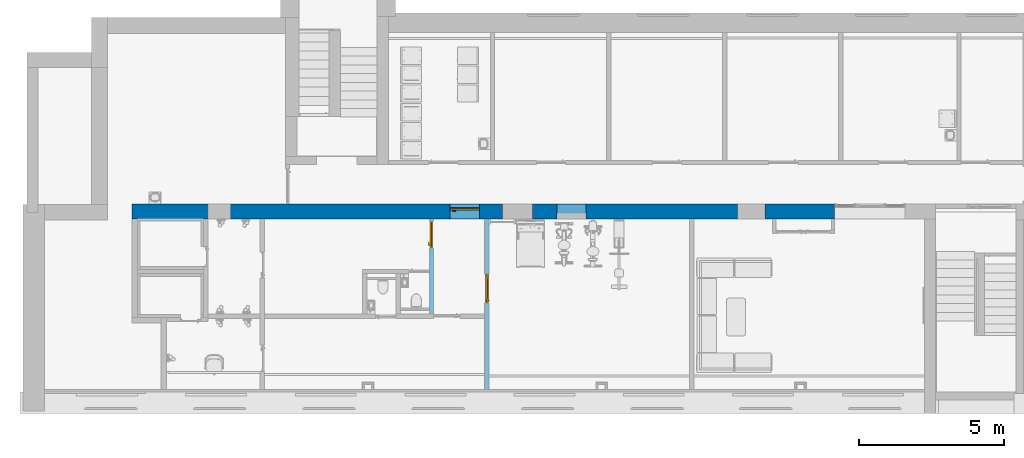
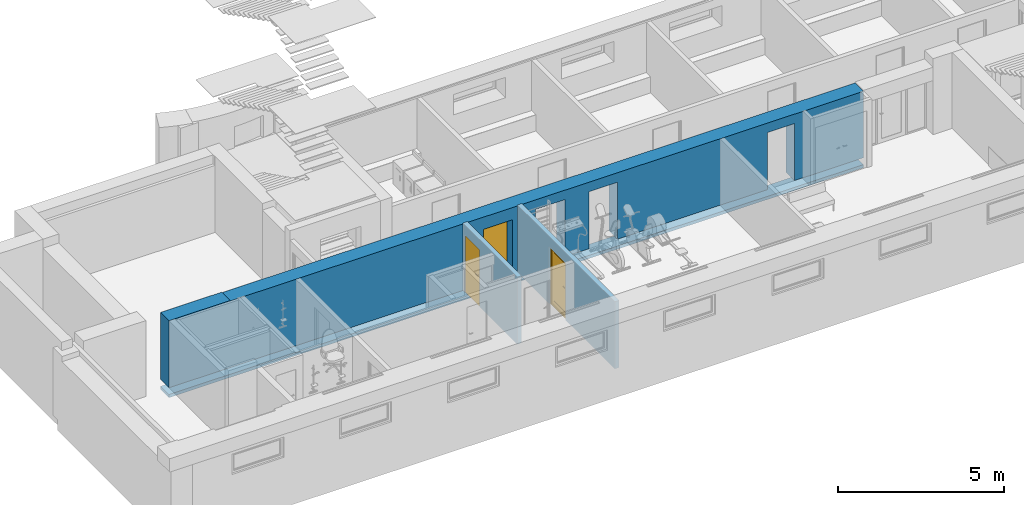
# One storey, part 12 of 23: 3 doors, 1 wall, 4 openings, plus 2 elements that do not belong to this part.
"""IFC2X3 building model written with IfcOpenShell, lengths in millimetres."""

from ifc_helpers import new_model, entity, si_unit, converted_unit, derived_unit, direction, frame, frame_2d, origin, place, context, subcontext, project, spatial, rectangle, extrude, faceted_brep, source, transform, mapped, material, material_list, layer, layer_set, layer_usage, type_object, type_shapes, element, fill, save


model = new_model("IFC2X3")

# Units and contexts
model_context = context("Model", 3, precision=0.01, world=origin(), true_north=direction((6.12303176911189e-17, 1.0)))
body_context = subcontext(model_context, "Body", "Model", "MODEL_VIEW")
ifc_project = project(units=[si_unit("LENGTHUNIT", "METRE", prefix="MILLI"), si_unit("AREAUNIT", "SQUARE_METRE"), si_unit("VOLUMEUNIT", "CUBIC_METRE"), converted_unit("PLANEANGLEUNIT", "DEGREE", entity("IfcRatioMeasure", 0.0174532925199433), si_unit("PLANEANGLEUNIT", "RADIAN"), dimensions=[0, 0, 0, 0, 0, 0, 0]), si_unit("MASSUNIT", "GRAM", prefix="KILO"), derived_unit("MASSDENSITYUNIT", [(si_unit("MASSUNIT", "GRAM", prefix="KILO"), 1), (si_unit("LENGTHUNIT", "METRE"), -3)]), si_unit("TIMEUNIT", "SECOND"), si_unit("FREQUENCYUNIT", "HERTZ"), si_unit("THERMODYNAMICTEMPERATUREUNIT", "DEGREE_CELSIUS"), derived_unit("THERMALTRANSMITTANCEUNIT", [(si_unit("MASSUNIT", "GRAM", prefix="KILO"), 1), (si_unit("THERMODYNAMICTEMPERATUREUNIT", "KELVIN"), -1), (si_unit("TIMEUNIT", "SECOND"), -3)]), derived_unit("VOLUMETRICFLOWRATEUNIT", [(si_unit("LENGTHUNIT", "METRE"), 3), (si_unit("TIMEUNIT", "SECOND"), -1)]), si_unit("ELECTRICCURRENTUNIT", "AMPERE"), si_unit("ELECTRICVOLTAGEUNIT", "VOLT"), si_unit("POWERUNIT", "WATT"), si_unit("FORCEUNIT", "NEWTON", prefix="KILO"), si_unit("ILLUMINANCEUNIT", "LUX"), si_unit("LUMINOUSFLUXUNIT", "LUMEN"), si_unit("LUMINOUSINTENSITYUNIT", "CANDELA"), derived_unit("USERDEFINED", [(si_unit("MASSUNIT", "GRAM", prefix="KILO"), -1), (si_unit("LENGTHUNIT", "METRE"), -2), (si_unit("TIMEUNIT", "SECOND"), 3), (si_unit("LUMINOUSFLUXUNIT", "LUMEN"), 1)]), derived_unit("LINEARVELOCITYUNIT", [(si_unit("LENGTHUNIT", "METRE"), 1), (si_unit("TIMEUNIT", "SECOND"), -1)]), si_unit("PRESSUREUNIT", "PASCAL"), derived_unit("USERDEFINED", [(si_unit("LENGTHUNIT", "METRE"), -2), (si_unit("MASSUNIT", "GRAM", prefix="KILO"), 1), (si_unit("TIMEUNIT", "SECOND"), -2)]), derived_unit("LINEARFORCEUNIT", [(si_unit("MASSUNIT", "GRAM", prefix="KILO"), 1), (si_unit("LENGTHUNIT", "METRE"), 1), (si_unit("TIMEUNIT", "SECOND"), -2), (si_unit("LENGTHUNIT", "METRE"), -1)]), derived_unit("PLANARFORCEUNIT", [(si_unit("MASSUNIT", "GRAM", prefix="KILO"), 1), (si_unit("LENGTHUNIT", "METRE"), 1), (si_unit("TIMEUNIT", "SECOND"), -2), (si_unit("LENGTHUNIT", "METRE"), -2)])], contexts=[model_context])

# Site, building, storey
site_placement = place(None, origin())
site = spatial("IfcSite", under=ifc_project, at=site_placement, Name="Default", CompositionType="ELEMENT")
building_placement = place(site_placement, origin())
building = spatial("IfcBuilding", under=site, at=building_placement, Name="SMA ARH", CompositionType="ELEMENT")
storey_placement = place(building_placement, frame((0.0, 0.0, -2800.0)))
storey = spatial("IfcBuildingStorey", under=building, at=storey_placement, Name="0 Sokkel", CompositionType="ELEMENT", Elevation=-2800.0)

# Wall, opening, door
ifc_material_1 = material(Name="_ol.olev sein")
ifc_layer_1 = layer(ifc_material_1, 510.0)
ifc_layer_set_1 = layer_set([ifc_layer_1], Name="Basic Wall:Generic - 510mm")
wall_type_1 = type_object("IfcWallType", Name="Basic Wall:Generic - 510mm", PredefinedType="STANDARD", material=ifc_layer_set_1)
wall_1_placement = place(storey_placement, frame((3150.0, 6265.0, -365.950000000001)))
wall_1 = element("IfcWall", 1, at=wall_1_placement, inside=storey, type_object=wall_type_1, Name="Basic Wall:Generic - 510mm", ObjectType="Basic Wall:Generic - 510mm", context=body_context, shape_type="Brep", body=[
    faceted_brep([(0.0, -255.0, 0.0), (24210.0, -255.0, 0.0), (24210.0, -255.0, 115.950000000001), (0.0, -255.0, 115.950000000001), (24210.0, 255.0, 0.0), (0.0, 255.0, 0.0), (0.0, 255.0, 115.950000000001), (24210.0, 255.0, 115.950000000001)], [[[0, 1, 2, 3]], [[4, 5, 6, 7]], [[1, 0, 5, 4]], [[3, 2, 7, 6]], [[5, 0, 3, 6]], [[1, 4, 7, 2]]]),
    faceted_brep([(24210.0, -255.0, 365.950000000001), (24210.0, 255.0, 365.950000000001), (24210.0, 255.0, 2365.95), (24210.0, 255.0, 2415.94999999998), (24210.0, 255.0, 2815.95), (24210.0, -255.0, 2815.95), (11970.0, -255.0, 2365.94999999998), (11970.0, 255.0, 2365.94999999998), (11970.0, 255.0, 365.950000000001), (11970.0, -255.0, 365.950000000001), (10970.0, -255.0, 2365.94999999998), (10970.0, 255.0, 2365.94999999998), (10970.0, -255.0, 365.950000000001), (10970.0, 255.0, 365.950000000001), (20864.5301609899, -255.0, 2465.95), (20864.5301609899, 255.0, 2465.95), (21804.5301609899, 255.0, 2465.95), (21804.5301609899, -255.0, 2465.95), (20864.5301609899, -255.0, 365.950000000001), (20864.5301609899, 255.0, 365.950000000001), (21804.5301609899, 255.0, 365.950000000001), (21804.5301609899, -255.0, 365.950000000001), (12770.0, -255.0, 2465.95), (12770.0, 255.0, 2465.95), (13810.0, 255.0, 2465.95), (13810.0, -255.0, 2465.95), (12770.0, -255.0, 365.950000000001), (12770.0, 255.0, 365.950000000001), (13810.0, 255.0, 365.950000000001), (13810.0, -255.0, 365.950000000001), (14643.7043911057, -255.0, 2465.95), (14643.7043911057, -55.0, 2465.95), (14643.7043911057, 255.0, 2465.95), (15639.1015672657, 255.0, 2465.95), (15639.1015672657, -55.0, 2465.95), (15639.1015672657, -255.0, 2465.95), (14643.7043911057, -255.0, 365.950000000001), (14643.7043911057, -55.0, 365.950000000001), (14643.7043911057, 255.0, 365.950000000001), (15639.1015672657, 255.0, 365.950000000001), (15639.1015672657, -55.0, 365.950000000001), (15639.1015672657, -255.0, 365.950000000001), (0.0, 255.0, 365.950000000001), (0.0, -255.0, 365.950000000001), (0.0, -255.0, 2835.95), (0.0, 255.0, 2835.95), (200.0, -255.0, 2835.95), (2132.50000000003, -255.0, 2835.95), (2132.50000000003, 255.0, 2835.95), (10400.0236086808, -255.0, 365.950000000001), (10250.0236086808, -255.0, 365.950000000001), (4569.97172272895, -255.0, 365.950000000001), (4419.97172272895, -255.0, 365.950000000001), (2619.97172272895, -255.0, 365.950000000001), (2469.97172272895, -255.0, 365.950000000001), (200.0, -255.0, 365.950000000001), (2132.50000000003, 255.0, 2815.95), (2132.50000000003, -255.0, 2815.95), (4419.97172272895, -255.0, 2815.95), (4569.97172272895, -255.0, 2815.95), (19210.0, -255.0, 2815.95), (19360.0, -255.0, 2815.95), (9921.25000000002, 255.0, 2815.95), (5440.0, 255.0, 2815.95), (5290.0, 255.0, 2815.95), (12300.0, -255.0, 365.950000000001), (12150.0, -255.0, 365.950000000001), (19360.0, -255.0, 365.950000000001), (19210.0, -255.0, 365.950000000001), (24094.5147814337, -255.0, 365.950000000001), (22194.5147814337, -255.0, 365.950000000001), (22078.5147814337, -255.0, 365.950000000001)], [[[0, 1, 2, 3, 4, 5]], [[6, 7, 8, 9]], [[7, 6, 10, 11]], [[11, 10, 12, 13]], [[14, 15, 16, 17]], [[15, 14, 18, 19]], [[17, 16, 20, 21]], [[22, 23, 24, 25]], [[23, 22, 26, 27]], [[25, 24, 28, 29]], [[30, 31, 32, 33, 34, 35]], [[32, 31, 30, 36, 37, 38]], [[35, 34, 33, 39, 40, 41]], [[42, 43, 44, 45]], [[45, 44, 46, 47, 48]], [[42, 13, 12, 49, 50, 51, 52, 53, 54, 55, 43]], [[56, 57, 58, 59, 60, 61, 5, 4, 62, 63, 64]], [[57, 56, 48, 47]], [[26, 65, 66, 9, 8, 27]], [[36, 29, 28, 38, 37]], [[18, 67, 68, 41, 40, 39, 19]], [[0, 69, 70, 71, 21, 20, 1]], [[8, 7, 11, 13, 42, 45, 48, 56, 64, 63, 62, 4, 3, 2, 1, 20, 16, 15, 19, 39, 33, 32, 38, 28, 24, 23, 27]], [[6, 9, 66, 65, 26, 22, 25, 29, 36, 30, 35, 41, 68, 67, 18, 14, 17, 21, 71, 70, 69, 0, 5, 61, 60, 59, 58, 57, 47, 46, 44, 43, 55, 54, 53, 52, 51, 50, 49, 12, 10]]]),
])
opening_1_placement = place(wall_1_placement, frame((11970.0, 255.0, 365.950000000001)))
opening_1 = element("IfcOpeningElement", 2, at=opening_1_placement, cuts=wall_1, Name="SMA_D01, 1-poolne:SU-M-03 - 1000x2000:1", ObjectType="Opening", context=body_context, shape_type="SweptSolid", body=[
    extrude(rectangle(XDim=1999.99999999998, YDim=1000.0, at=frame_2d((999.99999999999, 500.0), x_axis=(1.0, 0.0))), frame((0.0, 0.0, 0.0), z_axis=(0.0, -1.0, 0.0), x_axis=(0.0, 0.0, 1.0)), (0.0, 0.0, 1.0), 510.0),
])
ifc_material_2 = material(Name="EST. Metall. Alumiinium. Värvitud. RAL7023 (Concrete grey)")
ifc_material_3 = material(Name="<Unnamed>")
ifc_material_4 = material(Name="EST. Klaas. 3x. Default")
ifc_material_list_1 = material_list([ifc_material_2, ifc_material_3, ifc_material_2, ifc_material_3, ifc_material_2, ifc_material_3, ifc_material_4])
door_style_1 = type_object("IfcDoorStyle", Name="SMA_D01, 1-poolne:SU-M-03 - 1000x2000", ConstructionType="NOTDEFINED", OperationType="NOTDEFINED", ParameterTakesPrecedence=False, Sizeable=False, material=ifc_material_list_1)
shared_shape_1 = source(origin(), body_context, "Body", "Brep", [
    faceted_brep([(890.0, 120.0, 1112.5), (795.0, 120.0, 1112.5), (795.0, 115.0, 1112.5), (915.0, 115.0, 1112.5), (915.0, 158.0, 1112.5), (890.0, 158.0, 1112.5), (890.0, 120.0, 1087.5), (890.0, 158.0, 1087.5), (915.0, 158.0, 1087.5), (915.0, 115.0, 1087.5), (795.0, 115.0, 1087.5), (795.0, 120.0, 1087.5)], [[[0, 1, 2, 3, 4, 5]], [[6, 7, 8, 9, 10, 11]], [[5, 7, 6, 0]], [[4, 8, 7, 5]], [[3, 9, 8, 4]], [[2, 10, 9, 3]], [[1, 11, 10, 2]], [[0, 6, 11, 1]]]),
    faceted_brep([(877.500000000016, 158.0, 1137.5), (927.500000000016, 158.0, 1137.5), (927.500000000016, 160.0, 1137.5), (877.500000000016, 160.0, 1137.5), (877.500000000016, 158.0, 1017.5), (877.500000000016, 160.0, 1017.5), (927.500000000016, 160.0, 1017.5), (927.500000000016, 158.0, 1017.5)], [[[0, 1, 2, 3]], [[4, 5, 6, 7]], [[3, 5, 4, 0]], [[2, 6, 5, 3]], [[1, 7, 6, 2]], [[0, 4, 7, 1]]]),
    faceted_brep([(890.0, 250.0, 1112.5), (890.0, 212.0, 1112.5), (915.0, 212.0, 1112.5), (915.0, 255.0, 1112.5), (795.0, 255.0, 1112.5), (795.0, 250.0, 1112.5), (890.0, 250.0, 1087.5), (795.0, 250.0, 1087.5), (795.0, 255.0, 1087.5), (915.0, 255.0, 1087.5), (915.0, 212.0, 1087.5), (890.0, 212.0, 1087.5)], [[[0, 1, 2, 3, 4, 5]], [[6, 7, 8, 9, 10, 11]], [[1, 0, 6, 11]], [[2, 1, 11, 10]], [[3, 2, 10, 9]], [[4, 3, 9, 8]], [[5, 4, 8, 7]], [[0, 5, 7, 6]]]),
    faceted_brep([(877.500000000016, 212.0, 1137.5), (877.500000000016, 210.0, 1137.5), (927.500000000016, 210.0, 1137.5), (927.500000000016, 212.0, 1137.5), (877.500000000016, 212.0, 1017.5), (927.500000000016, 212.0, 1017.5), (927.500000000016, 210.0, 1017.5), (877.500000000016, 210.0, 1017.5)], [[[0, 1, 2, 3]], [[4, 5, 6, 7]], [[1, 0, 4, 7]], [[2, 1, 7, 6]], [[3, 2, 6, 5]], [[0, 3, 5, 4]]]),
    faceted_brep([(50.0, 120.0, 30.0), (50.0, 160.0, 30.0), (50.0, 160.0, 20.0), (50.0, 160.0, 0.0), (50.0, 120.0, 0.0), (950.0, 120.0, 30.0), (950.0, 120.0, 0.0), (950.0, 160.0, 0.0), (950.0, 160.0, 20.0), (950.0, 160.0, 30.0), (35.0, 160.0, 0.0), (35.0, 210.0, 0.0), (965.0, 210.0, 0.0), (965.0, 160.0, 0.0), (35.0, 210.0, 20.0), (35.0, 160.0, 20.0), (965.0, 210.0, 20.0), (965.0, 160.0, 20.0)], [[[0, 1, 2, 3, 4]], [[5, 6, 7, 8, 9]], [[4, 6, 5, 0]], [[3, 10, 11, 12, 13, 7, 6, 4]], [[9, 8, 2, 1]], [[0, 5, 9, 1]], [[14, 11, 10, 15]], [[16, 17, 13, 12]], [[15, 2, 8, 17, 16, 14]], [[10, 3, 2, 15]], [[14, 16, 12, 11]], [[17, 8, 7, 13]]]),
    faceted_brep([(10.0, 120.0, 0.0), (10.0, 210.0, 0.0), (35.0, 210.0, 0.0), (35.0, 160.0, 0.0), (50.0, 160.0, 0.0), (50.0, 120.0, 0.0), (50.0, 120.0, 1950.0), (950.0, 120.0, 1950.0), (950.0, 120.0, 0.0), (990.0, 120.0, 0.0), (990.0, 120.0, 1990.0), (10.0, 120.0, 1990.0), (50.0, 160.0, 1950.0), (35.0, 160.0, 1965.0), (965.0, 160.0, 1965.0), (965.0, 160.0, 0.0), (950.0, 160.0, 0.0), (950.0, 160.0, 1950.0), (35.0, 210.0, 1965.0), (10.0, 210.0, 1990.0), (990.0, 210.0, 1990.0), (990.0, 210.0, 0.0), (965.0, 210.0, 0.0), (965.0, 210.0, 1965.0)], [[[0, 1, 2, 3, 4, 5]], [[5, 6, 7, 8, 9, 10, 11, 0]], [[4, 12, 6, 5]], [[3, 13, 14, 15, 16, 17, 12, 4]], [[2, 18, 13, 3]], [[1, 19, 20, 21, 22, 23, 18, 2]], [[0, 11, 19, 1]], [[9, 21, 20, 10]], [[8, 16, 15, 22, 21, 9]], [[7, 17, 16, 8]], [[14, 23, 22, 15]], [[6, 12, 17, 7]], [[13, 18, 23, 14]], [[10, 20, 19, 11]]]),
    faceted_brep([(965.0, 160.0, 1965.0), (35.0, 160.0, 1965.0), (35.0, 160.0, 20.0), (965.0, 160.0, 20.0), (965.0, 210.0, 1965.0), (965.0, 210.0, 20.0), (35.0, 210.0, 20.0), (35.0, 210.0, 1965.0)], [[[0, 1, 2, 3]], [[4, 5, 6, 7]], [[3, 5, 4, 0]], [[2, 6, 5, 3]], [[1, 7, 6, 2]], [[0, 4, 7, 1]]]),
])
type_shapes(door_style_1, [shared_shape_1])
door_1_placement = place(opening_1_placement, frame((0.0, 0.0, 0.0), z_axis=(0.0, 0.0, 1.0), x_axis=(-1.0, 0.0, 0.0)))
door_1 = element("IfcDoor", 3, at=door_1_placement, inside=storey, type_object=door_style_1, material=ifc_material_2, Name="SMA_D01, 1-poolne:SU-M-03 - 1000x2000", ObjectType="SMA_D01, 1-poolne:SU-M-03 - 1000x2000", OverallHeight=1999.99999999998, OverallWidth=1000.0, context=body_context, shape_type="MappedRepresentation", body=[
    mapped(shared_shape_1, transform((0.0, 0.0, 0.0), scale=1.0)),
])
fill(opening_1, door_1)

# Wall, openings, door
ifc_material_5 = material(Name="EST. Müüritis. Väikeplokk. Kergkruusplokk")
ifc_layer_2 = layer(ifc_material_5, 150.0)
ifc_layer_set_2 = layer_set([ifc_layer_2], Name="Basic Wall:SS-01_ 150mm soklikorruse seinad")
ifc_layer_usage_1 = layer_usage(ifc_layer_set_2, "AXIS2", "NEGATIVE", 75.0)
wall_type_2 = type_object("IfcWallType", Name="Basic Wall:SS-01_ 150mm soklikorruse seinad", PredefinedType="STANDARD", material=ifc_layer_set_2)
wall_2_placement = place(storey_placement, frame((13475.0236086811, 6010.0, 0.0), z_axis=(0.0, 0.0, 1.0), x_axis=(0.0, -1.0, 0.0)))
wall_2 = element("IfcWallStandardCase", 4, at=wall_2_placement, inside=storey, type_object=wall_type_2, material=ifc_layer_usage_1, Name="Basic Wall:SS-01_ 150mm soklikorruse seinad", ObjectType="Basic Wall:SS-01_ 150mm soklikorruse seinad", context=body_context, shape_type="SweptSolid", body=[
    extrude(rectangle(XDim=3280.00000000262, YDim=150.000000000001, at=frame_2d((1640.00000000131, -1.20792265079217e-13), x_axis=(-1.0, 0.0))), origin(), (0.0, 0.0, 1.0), 2480.0),
])
opening_2_placement = place(wall_2_placement, origin())
element("IfcOpeningElement", 5, at=opening_2_placement, cuts=wall_2, Name="Basic Wall:SS-01_ 150mm soklikorruse seinad", ObjectType="Opening", context=body_context, shape_type="SweptSolid", body=[
    extrude(rectangle(XDim=2099.99999999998, YDim=150.0, at=frame_2d((-2.70006239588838e-13, 0.0), x_axis=(0.0, 1.0))), frame((1815.0, -775.0, 1050.0), z_axis=(0.0, 1.0, 0.0), x_axis=(-1.0, 0.0, 0.0)), (0.0, 0.0, 1.0), 699.999999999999),
])
opening_3_placement = place(wall_2_placement, frame((1000.0, 75.0, 0.0)))
opening_3 = element("IfcOpeningElement", 6, at=opening_3_placement, cuts=wall_2, Name="SMA_D01, 1-poolne:SU-P-01 - 900x2100:1", ObjectType="Opening", context=body_context, shape_type="SweptSolid", body=[
    extrude(rectangle(XDim=2099.99999999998, YDim=900.0, at=frame_2d((1049.99999999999, 450.0), x_axis=(1.0, 0.0))), frame((0.0, 0.0, 0.0), z_axis=(0.0, -1.0, 0.0), x_axis=(0.0, 0.0, 1.0)), (0.0, 0.0, 1.0), 150.0),
])
ifc_material_list_2 = material_list([ifc_material_4, ifc_material_3, ifc_material_3, ifc_material_2, ifc_material_3, ifc_material_2, ifc_material_2])
door_style_2 = type_object("IfcDoorStyle", Name="SMA_D01, 1-poolne:SU-P-01 - 900x2100", ConstructionType="NOTDEFINED", OperationType="NOTDEFINED", ParameterTakesPrecedence=False, Sizeable=False, material=ifc_material_list_2)
shared_shape_2 = source(origin(), body_context, "Body", "Brep", [
    faceted_brep([(110.0, 40.0, 1112.5), (110.0, 78.0, 1112.5), (85.0, 78.0, 1112.5), (85.0, 35.0, 1112.5), (205.0, 35.0, 1112.5), (205.0, 40.0, 1112.5), (110.0, 40.0, 1087.5), (205.0, 40.0, 1087.5), (205.0, 35.0, 1087.5), (85.0, 35.0, 1087.5), (85.0, 78.0, 1087.5), (110.0, 78.0, 1087.5)], [[[0, 1, 2, 3, 4, 5]], [[6, 7, 8, 9, 10, 11]], [[1, 0, 6, 11]], [[2, 1, 11, 10]], [[3, 2, 10, 9]], [[4, 3, 9, 8]], [[5, 4, 8, 7]], [[0, 5, 7, 6]]]),
    faceted_brep([(122.5, 78.0, 1137.5), (122.5, 80.0, 1137.5), (72.5000000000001, 80.0, 1137.5), (72.5000000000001, 78.0, 1137.5), (122.5, 78.0, 1017.5), (72.5000000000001, 78.0, 1017.5), (72.5000000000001, 80.0, 1017.5), (122.5, 80.0, 1017.5)], [[[0, 1, 2, 3]], [[4, 5, 6, 7]], [[1, 0, 4, 7]], [[2, 1, 7, 6]], [[3, 2, 6, 5]], [[0, 3, 5, 4]]]),
    faceted_brep([(110.0, 170.0, 1112.5), (205.0, 170.0, 1112.5), (205.0, 175.0, 1112.5), (85.0, 175.0, 1112.5), (85.0, 132.0, 1112.5), (110.0, 132.0, 1112.5), (110.0, 170.0, 1087.5), (110.0, 132.0, 1087.5), (85.0, 132.0, 1087.5), (85.0, 175.0, 1087.5), (205.0, 175.0, 1087.5), (205.0, 170.0, 1087.5)], [[[0, 1, 2, 3, 4, 5]], [[6, 7, 8, 9, 10, 11]], [[5, 7, 6, 0]], [[4, 8, 7, 5]], [[3, 9, 8, 4]], [[2, 10, 9, 3]], [[1, 11, 10, 2]], [[0, 6, 11, 1]]]),
    faceted_brep([(122.5, 132.0, 1137.5), (72.5000000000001, 132.0, 1137.5), (72.5000000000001, 130.0, 1137.5), (122.5, 130.0, 1137.5), (122.5, 132.0, 1017.5), (122.5, 130.0, 1017.5), (72.5000000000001, 130.0, 1017.5), (72.5000000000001, 132.0, 1017.5)], [[[0, 1, 2, 3]], [[4, 5, 6, 7]], [[3, 5, 4, 0]], [[2, 6, 5, 3]], [[1, 7, 6, 2]], [[0, 4, 7, 1]]]),
    faceted_brep([(850.0, 40.0, 30.0), (850.0, 40.0, 0.0), (850.0, 80.0, 0.0), (850.0, 80.0, 20.0), (850.0, 80.0, 30.0), (50.0, 40.0, 30.0), (50.0, 80.0, 30.0), (50.0, 80.0, 20.0), (50.0, 80.0, 0.0), (50.0, 40.0, 0.0), (35.0, 80.0, 0.0), (35.0, 130.0, 0.0), (865.0, 130.0, 0.0), (865.0, 80.0, 0.0), (865.0, 130.0, 20.0), (865.0, 80.0, 20.0), (35.0, 130.0, 20.0), (35.0, 80.0, 20.0)], [[[0, 1, 2, 3, 4]], [[5, 6, 7, 8, 9]], [[1, 0, 5, 9]], [[2, 1, 9, 8, 10, 11, 12, 13]], [[6, 4, 3, 7]], [[0, 4, 6, 5]], [[14, 15, 13, 12]], [[16, 11, 10, 17]], [[15, 14, 16, 17, 7, 3]], [[13, 15, 3, 2]], [[14, 12, 11, 16]], [[17, 10, 8, 7]]]),
    faceted_brep([(890.0, 40.0, 0.0), (850.0, 40.0, 0.0), (850.0, 80.0, 0.0), (865.0, 80.0, 0.0), (865.0, 130.0, 0.0), (890.0, 130.0, 0.0), (890.0, 40.0, 2090.0), (10.0, 40.0, 2090.0), (10.0, 40.0, 0.0), (50.0, 40.0, 0.0), (50.0, 40.0, 2050.0), (850.0, 40.0, 2050.0), (850.0, 80.0, 2050.0), (50.0, 80.0, 2050.0), (50.0, 80.0, 0.0), (35.0, 80.0, 0.0), (35.0, 80.0, 2065.0), (865.0, 80.0, 2065.0), (865.0, 130.0, 2065.0), (35.0, 130.0, 2065.0), (35.0, 130.0, 0.0), (10.0, 130.0, 0.0), (10.0, 130.0, 2090.0), (890.0, 130.0, 2090.0)], [[[0, 1, 2, 3, 4, 5]], [[1, 0, 6, 7, 8, 9, 10, 11]], [[2, 1, 11, 12]], [[3, 2, 12, 13, 14, 15, 16, 17]], [[4, 3, 17, 18]], [[5, 4, 18, 19, 20, 21, 22, 23]], [[0, 5, 23, 6]], [[8, 7, 22, 21]], [[9, 8, 21, 20, 15, 14]], [[10, 9, 14, 13]], [[16, 15, 20, 19]], [[11, 10, 13, 12]], [[17, 16, 19, 18]], [[7, 6, 23, 22]]]),
    faceted_brep([(35.0, 80.0, 2065.0), (35.0, 80.0, 20.0), (865.0, 80.0, 20.0), (865.0, 80.0, 2065.0), (35.0, 130.0, 2065.0), (865.0, 130.0, 2065.0), (865.0, 130.0, 20.0), (35.0, 130.0, 20.0)], [[[0, 1, 2, 3]], [[4, 5, 6, 7]], [[1, 0, 4, 7]], [[2, 1, 7, 6]], [[3, 2, 6, 5]], [[0, 3, 5, 4]]]),
])
type_shapes(door_style_2, [shared_shape_2])
door_2_placement = place(opening_3_placement, frame((0.0, 0.0, 0.0), z_axis=(0.0, 0.0, 1.0), x_axis=(-1.0, 0.0, 0.0)))
door_2 = element("IfcDoor", 7, at=door_2_placement, inside=storey, type_object=door_style_2, material=ifc_material_2, Name="SMA_D01, 1-poolne:SU-P-01 - 900x2100", ObjectType="SMA_D01, 1-poolne:SU-P-01 - 900x2100", OverallHeight=2099.99999999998, OverallWidth=900.0, context=body_context, shape_type="MappedRepresentation", body=[
    mapped(shared_shape_2, transform((0.0, 0.0, 0.0), scale=1.0)),
])
fill(opening_3, door_2)

# Wall, opening, door
ifc_layer_usage_2 = layer_usage(ifc_layer_set_2, "AXIS2", "NEGATIVE", 75.0)
wall_3_placement = place(storey_placement, frame((15375.0, 135.0, 0.0), z_axis=(0.0, 0.0, 1.0), x_axis=(0.0, 1.0, 0.0)))
wall_3 = element("IfcWallStandardCase", 8, at=wall_3_placement, inside=storey, type_object=wall_type_2, material=ifc_layer_usage_2, Name="Basic Wall:SS-01_ 150mm soklikorruse seinad", ObjectType="Basic Wall:SS-01_ 150mm soklikorruse seinad", context=body_context, shape_type="SweptSolid", body=[
    extrude(rectangle(XDim=5875.00000000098, YDim=150.000000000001, at=frame_2d((2937.50000000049, -7.105427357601e-15), x_axis=(-1.0, 0.0))), origin(), (0.0, 0.0, 1.0), 2480.0),
])
opening_4_placement = place(wall_3_placement, frame((3975.0, 75.0, 0.0)))
opening_4 = element("IfcOpeningElement", 9, at=opening_4_placement, cuts=wall_3, Name="SMA_D01, 1-poolne:SU-P-03 - 1000x2100:1", ObjectType="Opening", context=body_context, shape_type="SweptSolid", body=[
    extrude(rectangle(XDim=2099.99999999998, YDim=1000.0, at=frame_2d((1049.99999999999, 500.0), x_axis=(1.0, 0.0))), frame((0.0, 0.0, 0.0), z_axis=(0.0, -1.0, 0.0), x_axis=(0.0, 0.0, 1.0)), (0.0, 0.0, 1.0), 150.0),
])
ifc_material_6 = material(Name="__Aknaraam")
ifc_material_list_3 = material_list([ifc_material_2, ifc_material_6, ifc_material_4])
ifc_material_list_4 = material_list([ifc_material_6, ifc_material_2, ifc_material_3, ifc_material_3, ifc_material_6, ifc_material_3, ifc_material_4])
door_style_3 = type_object("IfcDoorStyle", Name="SMA_D01, 1-poolne:SU-P-03 - 1000x2100", ConstructionType="NOTDEFINED", OperationType="NOTDEFINED", ParameterTakesPrecedence=False, Sizeable=False, material=ifc_material_list_4)
shared_shape_3 = source(origin(), body_context, "Body", "Brep", [
    faceted_brep([(890.0, 40.0, 1112.5), (795.0, 40.0, 1112.5), (795.0, 35.0, 1112.5), (915.0, 35.0, 1112.5), (915.0, 78.0, 1112.5), (890.0, 78.0, 1112.5), (890.0, 40.0, 1087.5), (890.0, 78.0, 1087.5), (915.0, 78.0, 1087.5), (915.0, 35.0, 1087.5), (795.0, 35.0, 1087.5), (795.0, 40.0, 1087.5)], [[[0, 1, 2, 3, 4, 5]], [[6, 7, 8, 9, 10, 11]], [[5, 7, 6, 0]], [[4, 8, 7, 5]], [[3, 9, 8, 4]], [[2, 10, 9, 3]], [[1, 11, 10, 2]], [[0, 6, 11, 1]]]),
    faceted_brep([(877.500000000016, 78.0, 1137.5), (927.500000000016, 78.0, 1137.5), (927.500000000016, 80.0, 1137.5), (877.500000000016, 80.0, 1137.5), (877.500000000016, 78.0, 1017.5), (877.500000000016, 80.0, 1017.5), (927.500000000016, 80.0, 1017.5), (927.500000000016, 78.0, 1017.5)], [[[0, 1, 2, 3]], [[4, 5, 6, 7]], [[3, 5, 4, 0]], [[2, 6, 5, 3]], [[1, 7, 6, 2]], [[0, 4, 7, 1]]]),
    faceted_brep([(890.0, 170.0, 1112.5), (890.0, 132.0, 1112.5), (915.0, 132.0, 1112.5), (915.0, 175.0, 1112.5), (795.0, 175.0, 1112.5), (795.0, 170.0, 1112.5), (890.0, 170.0, 1087.5), (795.0, 170.0, 1087.5), (795.0, 175.0, 1087.5), (915.0, 175.0, 1087.5), (915.0, 132.0, 1087.5), (890.0, 132.0, 1087.5)], [[[0, 1, 2, 3, 4, 5]], [[6, 7, 8, 9, 10, 11]], [[1, 0, 6, 11]], [[2, 1, 11, 10]], [[3, 2, 10, 9]], [[4, 3, 9, 8]], [[5, 4, 8, 7]], [[0, 5, 7, 6]]]),
    faceted_brep([(877.500000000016, 132.0, 1137.5), (877.500000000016, 130.0, 1137.5), (927.500000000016, 130.0, 1137.5), (927.500000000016, 132.0, 1137.5), (877.500000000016, 132.0, 1017.5), (927.500000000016, 132.0, 1017.5), (927.500000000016, 130.0, 1017.5), (877.500000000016, 130.0, 1017.5)], [[[0, 1, 2, 3]], [[4, 5, 6, 7]], [[1, 0, 4, 7]], [[2, 1, 7, 6]], [[3, 2, 6, 5]], [[0, 3, 5, 4]]]),
    faceted_brep([(50.0, 40.0, 30.0), (50.0, 80.0, 30.0), (50.0, 80.0, 20.0), (50.0, 80.0, 0.0), (50.0, 40.0, 0.0), (950.0, 40.0, 30.0), (950.0, 40.0, 0.0), (950.0, 80.0, 0.0), (950.0, 80.0, 20.0), (950.0, 80.0, 30.0), (35.0, 80.0, 0.0), (35.0, 130.0, 0.0), (965.0, 130.0, 0.0), (965.0, 80.0, 0.0), (35.0, 130.0, 20.0), (35.0, 80.0, 20.0), (965.0, 130.0, 20.0), (965.0, 80.0, 20.0)], [[[0, 1, 2, 3, 4]], [[5, 6, 7, 8, 9]], [[4, 6, 5, 0]], [[3, 10, 11, 12, 13, 7, 6, 4]], [[9, 8, 2, 1]], [[0, 5, 9, 1]], [[14, 11, 10, 15]], [[16, 17, 13, 12]], [[15, 2, 8, 17, 16, 14]], [[10, 3, 2, 15]], [[14, 16, 12, 11]], [[17, 8, 7, 13]]]),
    faceted_brep([(10.0, 40.0, 0.0), (10.0, 130.0, 0.0), (35.0, 130.0, 0.0), (35.0, 80.0, 0.0), (50.0, 80.0, 0.0), (50.0, 40.0, 0.0), (50.0, 40.0, 2050.0), (950.0, 40.0, 2050.0), (950.0, 40.0, 0.0), (990.0, 40.0, 0.0), (990.0, 40.0, 2090.0), (10.0, 40.0, 2090.0), (50.0, 80.0, 2050.0), (35.0, 80.0, 2065.0), (965.0, 80.0, 2065.0), (965.0, 80.0, 0.0), (950.0, 80.0, 0.0), (950.0, 80.0, 2050.0), (35.0, 130.0, 2065.0), (10.0, 130.0, 2090.0), (990.0, 130.0, 2090.0), (990.0, 130.0, 0.0), (965.0, 130.0, 0.0), (965.0, 130.0, 2065.0)], [[[0, 1, 2, 3, 4, 5]], [[5, 6, 7, 8, 9, 10, 11, 0]], [[4, 12, 6, 5]], [[3, 13, 14, 15, 16, 17, 12, 4]], [[2, 18, 13, 3]], [[1, 19, 20, 21, 22, 23, 18, 2]], [[0, 11, 19, 1]], [[9, 21, 20, 10]], [[8, 16, 15, 22, 21, 9]], [[7, 17, 16, 8]], [[14, 23, 22, 15]], [[6, 12, 17, 7]], [[13, 18, 23, 14]], [[10, 20, 19, 11]]]),
    faceted_brep([(150.0, 95.0, 150.0), (850.0, 95.0, 150.0), (850.0, 95.0, 1950.0), (150.0, 95.0, 1950.0), (150.0, 115.0, 150.0), (150.0, 115.0, 1950.0), (850.0, 115.0, 1950.0), (850.0, 115.0, 150.0)], [[[0, 1, 2, 3]], [[4, 5, 6, 7]], [[3, 5, 4, 0]], [[2, 6, 5, 3]], [[1, 7, 6, 2]], [[0, 4, 7, 1]]]),
    faceted_brep([(35.0, 80.0, 20.0), (965.0, 80.0, 20.0), (965.0, 80.0, 2065.0), (35.0, 80.0, 2065.0), (850.0, 80.0, 150.0), (150.0, 80.0, 150.0), (150.0, 80.0, 1950.0), (850.0, 80.0, 1950.0), (35.0, 130.0, 20.0), (35.0, 130.0, 2065.0), (965.0, 130.0, 2065.0), (965.0, 130.0, 20.0), (850.0, 130.0, 1950.0), (150.0, 130.0, 1950.0), (150.0, 130.0, 150.0), (850.0, 130.0, 150.0)], [[[0, 1, 2, 3], [4, 5, 6, 7]], [[8, 9, 10, 11], [12, 13, 14, 15]], [[3, 9, 8, 0]], [[2, 10, 9, 3]], [[1, 11, 10, 2]], [[0, 8, 11, 1]], [[12, 15, 4, 7]], [[15, 14, 5, 4]], [[14, 13, 6, 5]], [[7, 6, 13, 12]]]),
])
type_shapes(door_style_3, [shared_shape_3])
door_3_placement = place(opening_4_placement, frame((0.0, 0.0, 0.0), z_axis=(0.0, 0.0, 1.0), x_axis=(-1.0, 0.0, 0.0)))
door_3 = element("IfcDoor", 10, at=door_3_placement, inside=storey, type_object=door_style_3, material=ifc_material_list_3, Name="SMA_D01, 1-poolne:SU-P-03 - 1000x2100", ObjectType="SMA_D01, 1-poolne:SU-P-03 - 1000x2100", OverallHeight=2099.99999999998, OverallWidth=1000.0, context=body_context, shape_type="MappedRepresentation", body=[
    mapped(shared_shape_3, transform((0.0, 0.0, 0.0), scale=1.0)),
])
fill(opening_4, door_3)

save(model, "model.ifc")
